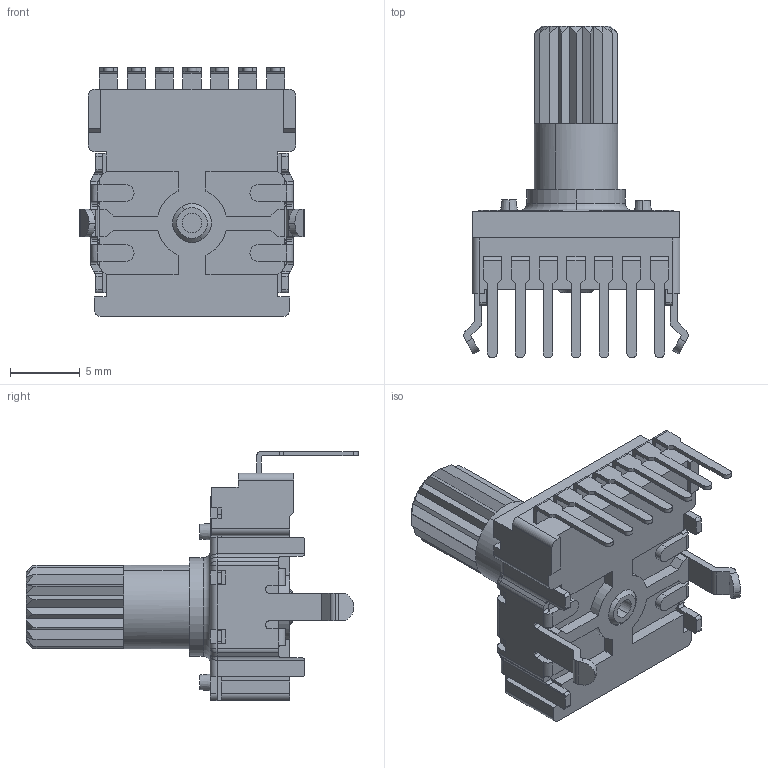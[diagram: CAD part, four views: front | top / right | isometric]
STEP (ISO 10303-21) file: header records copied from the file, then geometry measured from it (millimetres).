
FILE_DESCRIPTION (( 'STEP AP203' ), '1' );
FILE_NAME ('P140KH-Y20.STEP', '2026-09-15T19:22:58', ( '' ), ( '' ), 'SwSTEP 2.0', 'SolidWorks 2026', '' );
FILE_SCHEMA (( 'CONFIG_CONTROL_DESIGN' ));
Length unit declared in the file: millimetre
Products named in the file (7): KH bracket; Housing; V-terminal; Y20; spring_plate; P140KH-Y20; KH-housing
Assembly tree (12 placements, depth 3):
  P140KH-Y20
    KH-housing
      Housing
      V-terminal  x7
    Y20
    spring_plate
    KH bracket
Bounding box: 16.1 x 23.8 x 17.85 mm (x, y, z)
Volume: 1320.5 mm3; surface area: 2701 mm2
Topology: 11 solids, 11 shells, 662 faces, 1760 edges, 1114 vertices
Faces by surface type: plane 427, cylinder 189, cone 24, bspline 12, torus 6, sphere 4
Entity records: 18921 total; most frequent: CARTESIAN_POINT 3574, ORIENTED_EDGE 3072, DIRECTION 2958, EDGE_CURVE 1536, VECTOR 1066, LINE 1066, VERTEX_POINT 970, AXIS2_PLACEMENT_3D 946
